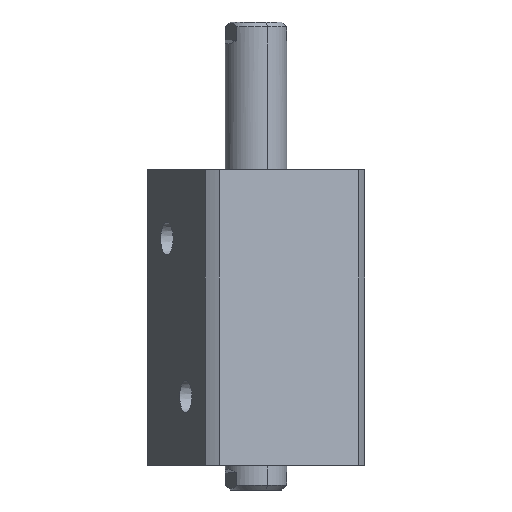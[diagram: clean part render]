
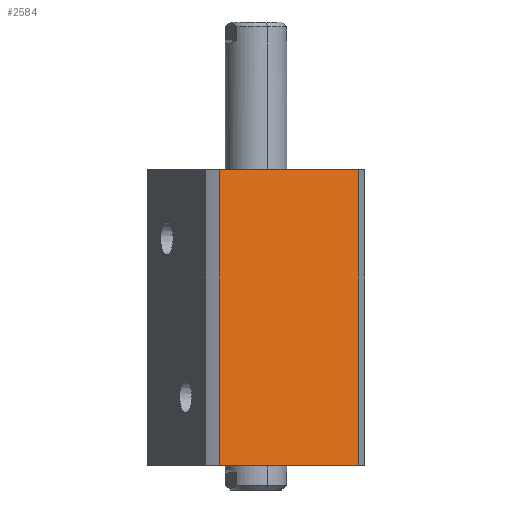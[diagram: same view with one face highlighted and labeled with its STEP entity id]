
A CAD part, front view. The second image highlights one B-rep face of the part: STEP entity #2584.
In plain terms, the highlighted planar face has unit normal (0.383, -0.924, 0) as drawn and (1, 0, 0) by its records, which use the part's own axes.
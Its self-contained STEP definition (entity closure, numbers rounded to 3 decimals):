
#233 = CARTESIAN_POINT ( 'NONE',  ( 35., 30.615, 120. ) ) ;
#332 = CARTESIAN_POINT ( 'NONE',  ( 35., 30.615, -2880. ) ) ;
#545 = ORIENTED_EDGE ( 'NONE', *, *, #6334, .F. ) ;
#675 = DIRECTION ( 'NONE',  ( -1., 0., 0. ) ) ;
#801 = VERTEX_POINT ( 'NONE', #7225 ) ;
#1209 = CARTESIAN_POINT ( 'NONE',  ( 35., 35., 120. ) ) ;
#1238 = LINE ( 'NONE', #1209, #9544 ) ;
#1291 = DIRECTION ( 'NONE',  ( 0., 1., 0. ) ) ;
#1402 = CARTESIAN_POINT ( 'NONE',  ( 35., 35., 120. ) ) ;
#1719 = CARTESIAN_POINT ( 'NONE',  ( 35., -30.615, -2880. ) ) ;
#2014 = DIRECTION ( 'NONE',  ( 0., 1., 0. ) ) ;
#2523 = DIRECTION ( 'NONE',  ( 0., 0., 1. ) ) ;
#2584 = ADVANCED_FACE ( 'NONE', ( #6597 ), #4673, .F. ) ;
#2893 = VERTEX_POINT ( 'NONE', #233 ) ;
#2927 = ORIENTED_EDGE ( 'NONE', *, *, #7053, .F. ) ;
#3037 = LINE ( 'NONE', #9157, #7133 ) ;
#3150 = VERTEX_POINT ( 'NONE', #5701 ) ;
#3195 = VERTEX_POINT ( 'NONE', #6566 ) ;
#3408 = EDGE_CURVE ( 'NONE', #3150, #801, #3037, .T. ) ;
#3573 = DIRECTION ( 'NONE',  ( 0., 0., -1. ) ) ;
#4151 = EDGE_LOOP ( 'NONE', ( #7522, #5142, #2927, #545 ) ) ;
#4673 = PLANE ( 'NONE',  #7979 ) ;
#5142 = ORIENTED_EDGE ( 'NONE', *, *, #3408, .T. ) ;
#5701 = CARTESIAN_POINT ( 'NONE',  ( 35., -30.615, 0. ) ) ;
#6177 = VECTOR ( 'NONE', #2523, 1000. ) ;
#6334 = EDGE_CURVE ( 'NONE', #3195, #2893, #1238, .T. ) ;
#6435 = LINE ( 'NONE', #1719, #6177 ) ;
#6566 = CARTESIAN_POINT ( 'NONE',  ( 35., -30.615, 120. ) ) ;
#6597 = FACE_OUTER_BOUND ( 'NONE', #4151, .T. ) ;
#7053 = EDGE_CURVE ( 'NONE', #2893, #801, #10099, .T. ) ;
#7133 = VECTOR ( 'NONE', #1291, 1000. ) ;
#7225 = CARTESIAN_POINT ( 'NONE',  ( 35., 30.615, 0. ) ) ;
#7522 = ORIENTED_EDGE ( 'NONE', *, *, #10243, .F. ) ;
#7979 = AXIS2_PLACEMENT_3D ( 'NONE', #1402, #675, #10242 ) ;
#8026 = VECTOR ( 'NONE', #3573, 1000. ) ;
#9157 = CARTESIAN_POINT ( 'NONE',  ( 35., 35., 0. ) ) ;
#9544 = VECTOR ( 'NONE', #2014, 1000. ) ;
#10099 = LINE ( 'NONE', #332, #8026 ) ;
#10242 = DIRECTION ( 'NONE',  ( 0., -1., 0. ) ) ;
#10243 = EDGE_CURVE ( 'NONE', #3150, #3195, #6435, .T. ) ;
